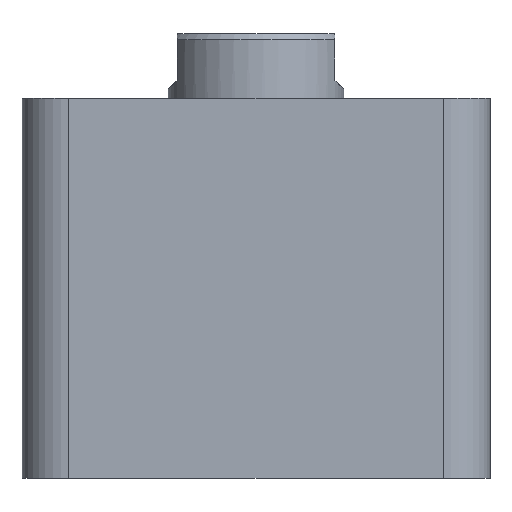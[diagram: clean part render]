
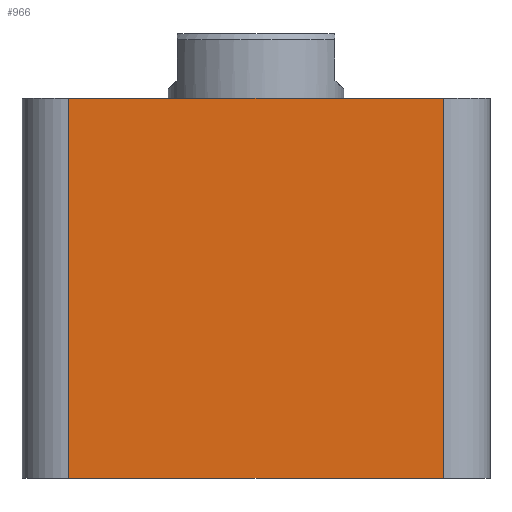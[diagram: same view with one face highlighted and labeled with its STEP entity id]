
A CAD part, front view. The second image highlights one B-rep face of the part: STEP entity #966.
In plain terms, the highlighted planar face has unit normal (0, -1, 0).
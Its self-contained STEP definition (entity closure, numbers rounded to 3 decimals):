
#210 = ORIENTED_EDGE ( 'NONE', *, *, #1110, .T. ) ;
#214 = ORIENTED_EDGE ( 'NONE', *, *, #1112, .T. ) ;
#337 = ORIENTED_EDGE ( 'NONE', *, *, #1114, .F. ) ;
#469 = ORIENTED_EDGE ( 'NONE', *, *, #1111, .T. ) ;
#635 = DIRECTION ( 'NONE',  ( 0., 0., 1. ) ) ;
#636 = DIRECTION ( 'NONE',  ( 0., 1., 0. ) ) ;
#642 = PLANE ( 'NONE',  #1005 ) ;
#650 = CARTESIAN_POINT ( 'NONE',  ( -40., -40., 65. ) ) ;
#966 = ADVANCED_FACE ( 'NONE', ( #1486 ), #642, .F. ) ;
#1005 = AXIS2_PLACEMENT_3D ( 'NONE', #650, #636, #635 ) ;
#1110 = EDGE_CURVE ( 'NONE', #1701, #1707, #1283, .T. ) ;
#1111 = EDGE_CURVE ( 'NONE', #1667, #1701, #1282, .T. ) ;
#1112 = EDGE_CURVE ( 'NONE', #1670, #1667, #1279, .T. ) ;
#1114 = EDGE_CURVE ( 'NONE', #1670, #1707, #1281, .T. ) ;
#1272 = VECTOR ( 'NONE', #2499, 1000. ) ;
#1276 = VECTOR ( 'NONE', #2505, 1000. ) ;
#1278 = VECTOR ( 'NONE', #2512, 1000. ) ;
#1279 = LINE ( 'NONE', #2509, #1276 ) ;
#1280 = VECTOR ( 'NONE', #2636, 1000. ) ;
#1281 = LINE ( 'NONE', #2640, #1272 ) ;
#1282 = LINE ( 'NONE', #2516, #1278 ) ;
#1283 = LINE ( 'NONE', #2510, #1280 ) ;
#1466 = EDGE_LOOP ( 'NONE', ( #337, #214, #469, #210 ) ) ;
#1486 = FACE_OUTER_BOUND ( 'NONE', #1466, .T. ) ;
#1667 = VERTEX_POINT ( 'NONE', #2290 ) ;
#1670 = VERTEX_POINT ( 'NONE', #2280 ) ;
#1701 = VERTEX_POINT ( 'NONE', #2221 ) ;
#1707 = VERTEX_POINT ( 'NONE', #2215 ) ;
#2215 = CARTESIAN_POINT ( 'NONE',  ( 32., -40., 65. ) ) ;
#2221 = CARTESIAN_POINT ( 'NONE',  ( 32., -40., 0. ) ) ;
#2280 = CARTESIAN_POINT ( 'NONE',  ( -32., -40., 65. ) ) ;
#2290 = CARTESIAN_POINT ( 'NONE',  ( -32., -40., 0. ) ) ;
#2499 = DIRECTION ( 'NONE',  ( 1., 0., 0. ) ) ;
#2505 = DIRECTION ( 'NONE',  ( 0., 0., -1. ) ) ;
#2509 = CARTESIAN_POINT ( 'NONE',  ( -32., -40., 65. ) ) ;
#2510 = CARTESIAN_POINT ( 'NONE',  ( 32., -40., 65. ) ) ;
#2512 = DIRECTION ( 'NONE',  ( 1., 0., 0. ) ) ;
#2516 = CARTESIAN_POINT ( 'NONE',  ( -40., -40., 0. ) ) ;
#2636 = DIRECTION ( 'NONE',  ( 0., 0., 1. ) ) ;
#2640 = CARTESIAN_POINT ( 'NONE',  ( -40., -40., 65. ) ) ;
